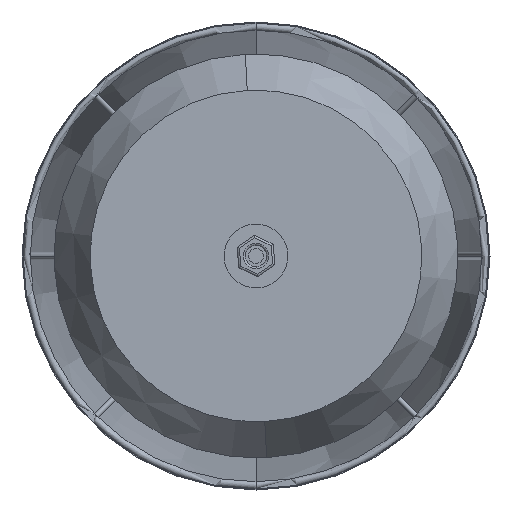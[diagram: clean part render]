
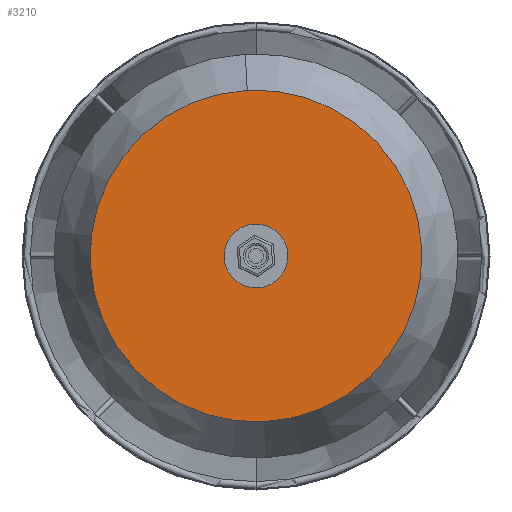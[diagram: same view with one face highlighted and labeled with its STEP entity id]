
A CAD part, front view. The second image highlights one B-rep face of the part: STEP entity #3210.
In plain terms, the highlighted planar face has unit normal (0, -1, 0).
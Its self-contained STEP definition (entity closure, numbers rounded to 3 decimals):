
#841 = CIRCLE ( 'NONE', #3588, 78. ) ;
#908 = DIRECTION ( 'NONE',  ( 0., -1., 0. ) ) ;
#1286 = CARTESIAN_POINT ( 'NONE',  ( 0., -30., 0. ) ) ;
#1549 = DIRECTION ( 'NONE',  ( 0., 0., -1. ) ) ;
#1886 = CIRCLE ( 'NONE', #6596, 15. ) ;
#2089 = DIRECTION ( 'NONE',  ( 0., 0., -1. ) ) ;
#2421 = CARTESIAN_POINT ( 'NONE',  ( 0., -30., 78. ) ) ;
#2515 = CARTESIAN_POINT ( 'NONE',  ( -78., -30., 0. ) ) ;
#2691 = CARTESIAN_POINT ( 'NONE',  ( 0., -30., 0. ) ) ;
#3119 = AXIS2_PLACEMENT_3D ( 'NONE', #2515, #6332, #7580 ) ;
#3210 = ADVANCED_FACE ( 'NONE', ( #6643, #6786 ), #9828, .F. ) ;
#3345 = CARTESIAN_POINT ( 'NONE',  ( 0., -30., 0. ) ) ;
#3459 = DIRECTION ( 'NONE',  ( 0., -1., 0. ) ) ;
#3588 = AXIS2_PLACEMENT_3D ( 'NONE', #1286, #5485, #2089 ) ;
#3711 = VERTEX_POINT ( 'NONE', #8133 ) ;
#3834 = EDGE_CURVE ( 'NONE', #10519, #9475, #8946, .T. ) ;
#3885 = EDGE_LOOP ( 'NONE', ( #7303, #9926 ) ) ;
#3966 = EDGE_CURVE ( 'NONE', #7472, #3711, #1886, .T. ) ;
#4397 = EDGE_LOOP ( 'NONE', ( #6092, #10136 ) ) ;
#4884 = DIRECTION ( 'NONE',  ( 0., -1., 0. ) ) ;
#5485 = DIRECTION ( 'NONE',  ( 0., -1., 0. ) ) ;
#5929 = CARTESIAN_POINT ( 'NONE',  ( 0., -30., 0. ) ) ;
#6080 = AXIS2_PLACEMENT_3D ( 'NONE', #2691, #3459, #10153 ) ;
#6092 = ORIENTED_EDGE ( 'NONE', *, *, #3966, .F. ) ;
#6332 = DIRECTION ( 'NONE',  ( 0., 1., 0. ) ) ;
#6596 = AXIS2_PLACEMENT_3D ( 'NONE', #5929, #908, #7733 ) ;
#6643 = FACE_BOUND ( 'NONE', #4397, .T. ) ;
#6786 = FACE_OUTER_BOUND ( 'NONE', #3885, .T. ) ;
#7303 = ORIENTED_EDGE ( 'NONE', *, *, #7593, .T. ) ;
#7472 = VERTEX_POINT ( 'NONE', #9349 ) ;
#7580 = DIRECTION ( 'NONE',  ( 0., 0., 1. ) ) ;
#7593 = EDGE_CURVE ( 'NONE', #9475, #10519, #841, .T. ) ;
#7733 = DIRECTION ( 'NONE',  ( 0., 0., -1. ) ) ;
#8133 = CARTESIAN_POINT ( 'NONE',  ( 0., -30., 15. ) ) ;
#8436 = CIRCLE ( 'NONE', #6080, 15. ) ;
#8772 = CARTESIAN_POINT ( 'NONE',  ( 0., -30., -78. ) ) ;
#8874 = AXIS2_PLACEMENT_3D ( 'NONE', #3345, #4884, #1549 ) ;
#8946 = CIRCLE ( 'NONE', #8874, 78. ) ;
#9333 = EDGE_CURVE ( 'NONE', #3711, #7472, #8436, .T. ) ;
#9349 = CARTESIAN_POINT ( 'NONE',  ( 0., -30., -15. ) ) ;
#9475 = VERTEX_POINT ( 'NONE', #2421 ) ;
#9828 = PLANE ( 'NONE',  #3119 ) ;
#9926 = ORIENTED_EDGE ( 'NONE', *, *, #3834, .T. ) ;
#10136 = ORIENTED_EDGE ( 'NONE', *, *, #9333, .F. ) ;
#10153 = DIRECTION ( 'NONE',  ( 0., 0., -1. ) ) ;
#10519 = VERTEX_POINT ( 'NONE', #8772 ) ;
